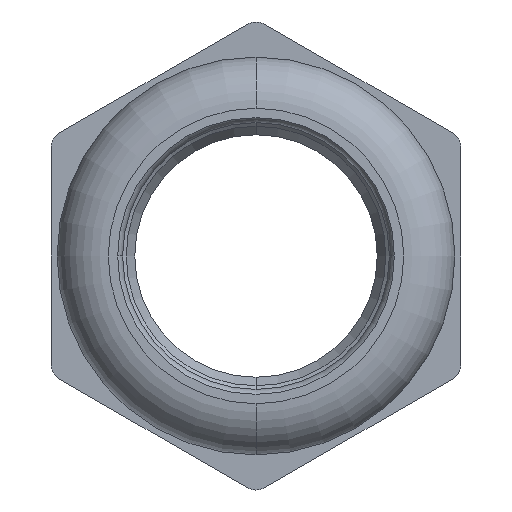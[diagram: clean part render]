
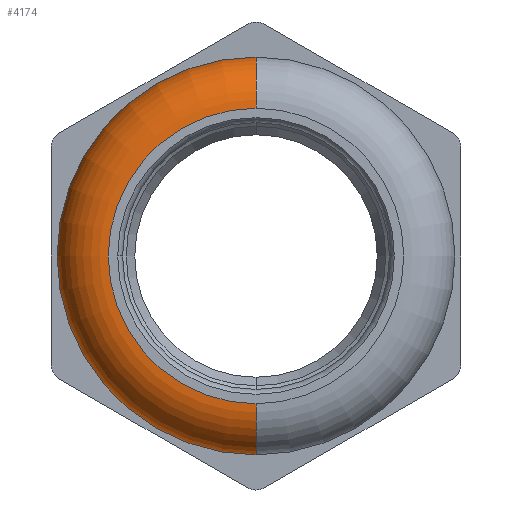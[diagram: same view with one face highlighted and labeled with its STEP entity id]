
A CAD part, left-side view. The second image highlights one B-rep face of the part: STEP entity #4174.
In plain terms, the highlighted toroidal (fillet/blend) face has major radius 8.65 mm and minor radius 3 mm.
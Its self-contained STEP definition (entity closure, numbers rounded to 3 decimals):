
#404 = CIRCLE ( 'NONE', #5993, 3. ) ;
#766 = DIRECTION ( 'NONE',  ( -1., 0., 0. ) ) ;
#879 = AXIS2_PLACEMENT_3D ( 'NONE', #7307, #5941, #2773 ) ;
#1294 = DIRECTION ( 'NONE',  ( 0., 1., 0. ) ) ;
#1580 = FACE_OUTER_BOUND ( 'NONE', #6135, .T. ) ;
#1691 = CARTESIAN_POINT ( 'NONE',  ( -25.79, 0., -10.679 ) ) ;
#1927 = VERTEX_POINT ( 'NONE', #1691 ) ;
#2213 = EDGE_CURVE ( 'NONE', #6467, #1927, #2715, .T. ) ;
#2362 = DIRECTION ( 'NONE',  ( 0., 0., 1. ) ) ;
#2633 = CARTESIAN_POINT ( 'NONE',  ( -31., 0., 8.65 ) ) ;
#2715 = CIRCLE ( 'NONE', #6893, 10.679 ) ;
#2750 = ORIENTED_EDGE ( 'NONE', *, *, #2213, .T. ) ;
#2773 = DIRECTION ( 'NONE',  ( 0., 0., 1. ) ) ;
#2926 = AXIS2_PLACEMENT_3D ( 'NONE', #7268, #4131, #7356 ) ;
#3411 = CIRCLE ( 'NONE', #879, 8.65 ) ;
#3469 = CARTESIAN_POINT ( 'NONE',  ( -28., 0., -8.65 ) ) ;
#3869 = AXIS2_PLACEMENT_3D ( 'NONE', #9253, #6989, #2362 ) ;
#3959 = VERTEX_POINT ( 'NONE', #2633 ) ;
#4131 = DIRECTION ( 'NONE',  ( 0., -1., 0. ) ) ;
#4174 = ADVANCED_FACE ( 'NONE', ( #1580 ), #8222, .T. ) ;
#4512 = ORIENTED_EDGE ( 'NONE', *, *, #6590, .T. ) ;
#5198 = DIRECTION ( 'NONE',  ( 0., 0., 1. ) ) ;
#5644 = CIRCLE ( 'NONE', #2926, 3. ) ;
#5941 = DIRECTION ( 'NONE',  ( -1., 0., 0. ) ) ;
#5993 = AXIS2_PLACEMENT_3D ( 'NONE', #3469, #1294, #5198 ) ;
#6135 = EDGE_LOOP ( 'NONE', ( #2750, #4512, #8751, #6311 ) ) ;
#6311 = ORIENTED_EDGE ( 'NONE', *, *, #9548, .F. ) ;
#6445 = CARTESIAN_POINT ( 'NONE',  ( -25.79, 0., 10.679 ) ) ;
#6467 = VERTEX_POINT ( 'NONE', #6445 ) ;
#6536 = EDGE_CURVE ( 'NONE', #3959, #7592, #3411, .T. ) ;
#6590 = EDGE_CURVE ( 'NONE', #1927, #7592, #404, .T. ) ;
#6893 = AXIS2_PLACEMENT_3D ( 'NONE', #7810, #766, #8437 ) ;
#6989 = DIRECTION ( 'NONE',  ( -1., 0., 0. ) ) ;
#7268 = CARTESIAN_POINT ( 'NONE',  ( -28., 0., 8.65 ) ) ;
#7307 = CARTESIAN_POINT ( 'NONE',  ( -31., 0., 0. ) ) ;
#7356 = DIRECTION ( 'NONE',  ( 0., 0., -1. ) ) ;
#7592 = VERTEX_POINT ( 'NONE', #8902 ) ;
#7810 = CARTESIAN_POINT ( 'NONE',  ( -25.79, 0., 0. ) ) ;
#8222 = TOROIDAL_SURFACE ( 'NONE', #3869, 8.65, 3. ) ;
#8437 = DIRECTION ( 'NONE',  ( 0., 0., 1. ) ) ;
#8751 = ORIENTED_EDGE ( 'NONE', *, *, #6536, .F. ) ;
#8902 = CARTESIAN_POINT ( 'NONE',  ( -31., 0., -8.65 ) ) ;
#9253 = CARTESIAN_POINT ( 'NONE',  ( -28., 0., 0. ) ) ;
#9548 = EDGE_CURVE ( 'NONE', #6467, #3959, #5644, .T. ) ;
